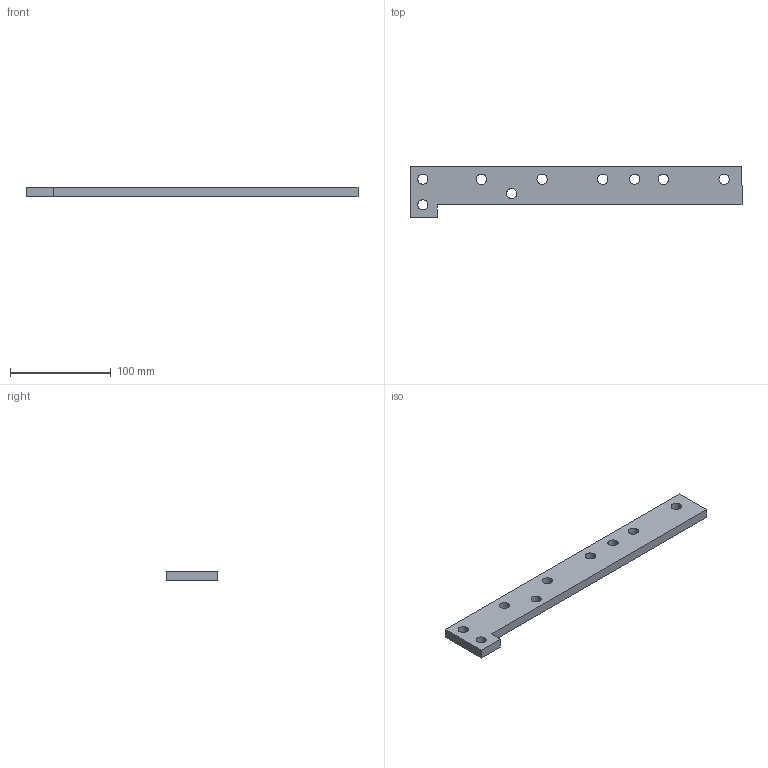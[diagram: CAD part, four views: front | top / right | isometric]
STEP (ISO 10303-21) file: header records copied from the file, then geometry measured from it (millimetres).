
FILE_DESCRIPTION (( 'STEP AP214' ), '1' );
FILE_NAME ('1106792.STEP', '2020-02-04T18:47:48', ( '' ), ( '' ), 'SwSTEP 2.0', 'SolidWorks 2014', '' );
FILE_SCHEMA (( 'AUTOMOTIVE_DESIGN' ));
Length unit declared in the file: inch
Products named in the file (1): 1106792
Bounding box: 330.15 x 50.8 x 9.53 mm (x, y, z)
Volume: 116130.9 mm3; surface area: 34391.4 mm2
Topology: 1 solids, 1 shells, 26 faces, 72 edges, 48 vertices
Faces by surface type: cylinder 18, plane 8
Entity records: 1266 total; most frequent: DIRECTION 162, CARTESIAN_POINT 147, ORIENTED_EDGE 144, EDGE_CURVE 72, AXIS2_PLACEMENT_3D 63, VERTEX_POINT 48, EDGE_LOOP 44, VECTOR 36
